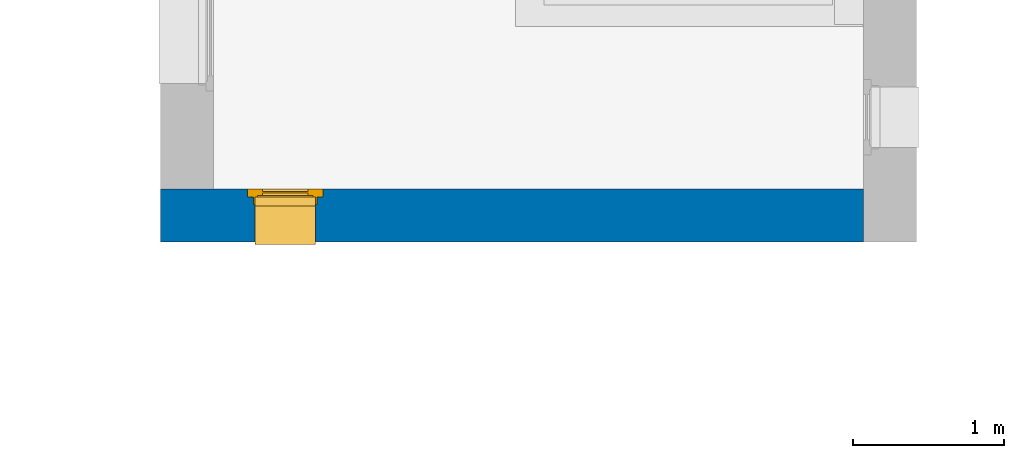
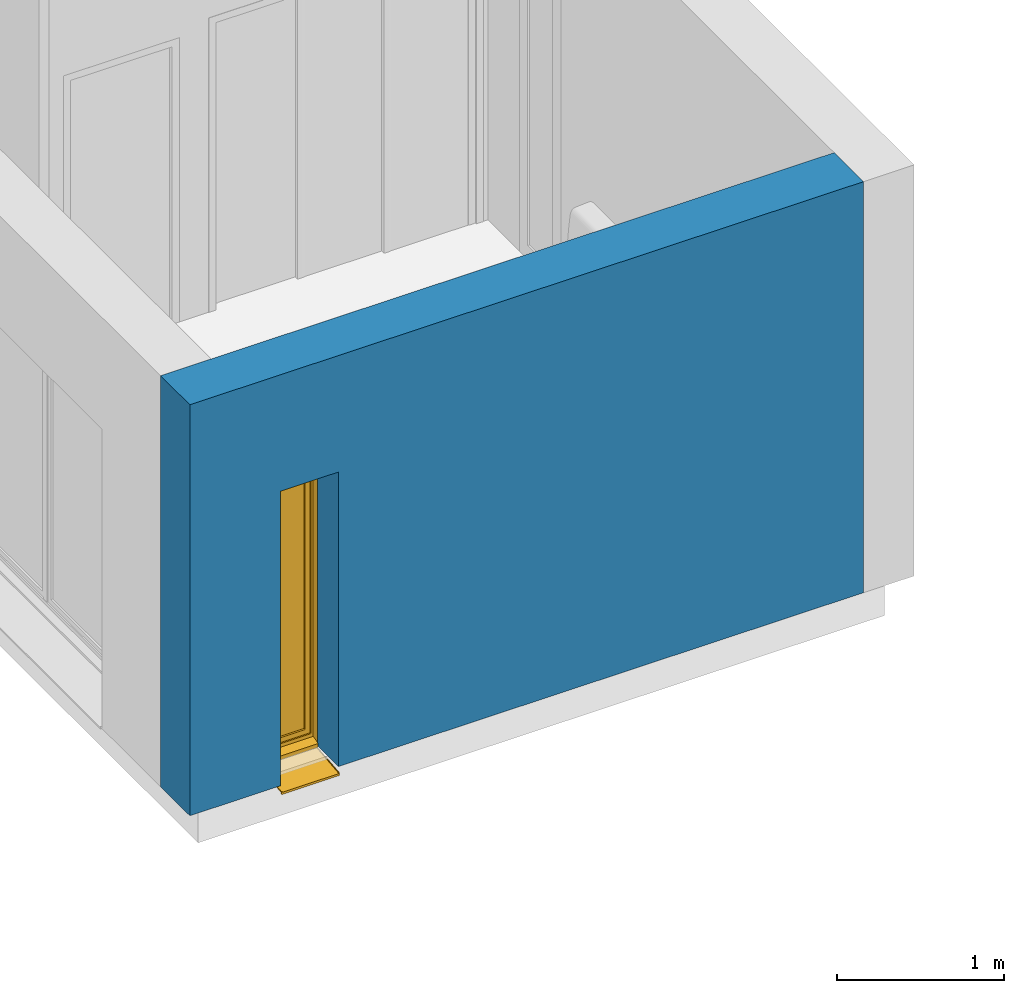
# One storey, part 6 of 40: 1 wall, 1 window, 1 opening.
"""IFC2X3 building model written with IfcOpenShell, lengths in metres."""

from ifc_helpers import new_model, entity, si_unit, converted_unit, derived_unit, direction, frame, frame_2d, origin, place, context, subcontext, project, spatial, rectangle, extrude, faceted_brep, source, transform, mapped, material, material_list, layer, layer_set, layer_usage, type_object, type_shapes, element, fill, save


model = new_model("IFC2X3")

# Units and contexts
model_context = context("Model", 3, precision=1e-05, world=origin(), true_north=direction((6.12303176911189e-17, 1.0)))
body_context = subcontext(model_context, "Body", "Model", "MODEL_VIEW")
ifc_project = project(units=[si_unit("LENGTHUNIT", "METRE"), si_unit("AREAUNIT", "SQUARE_METRE"), si_unit("VOLUMEUNIT", "CUBIC_METRE"), converted_unit("PLANEANGLEUNIT", "DEGREE", entity("IfcRatioMeasure", 0.0174532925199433), si_unit("PLANEANGLEUNIT", "RADIAN"), dimensions=[0, 0, 0, 0, 0, 0, 0]), si_unit("MASSUNIT", "GRAM", prefix="KILO"), derived_unit("MASSDENSITYUNIT", [(si_unit("MASSUNIT", "GRAM", prefix="KILO"), 1), (si_unit("LENGTHUNIT", "METRE"), -3)]), si_unit("TIMEUNIT", "SECOND"), si_unit("FREQUENCYUNIT", "HERTZ"), si_unit("THERMODYNAMICTEMPERATUREUNIT", "DEGREE_CELSIUS"), derived_unit("THERMALTRANSMITTANCEUNIT", [(si_unit("MASSUNIT", "GRAM", prefix="KILO"), 1), (si_unit("THERMODYNAMICTEMPERATUREUNIT", "KELVIN"), -1), (si_unit("TIMEUNIT", "SECOND"), -3)]), derived_unit("VOLUMETRICFLOWRATEUNIT", [(si_unit("LENGTHUNIT", "METRE"), 3), (si_unit("TIMEUNIT", "SECOND"), -1)]), si_unit("ELECTRICCURRENTUNIT", "AMPERE"), si_unit("ELECTRICVOLTAGEUNIT", "VOLT"), si_unit("POWERUNIT", "WATT"), si_unit("FORCEUNIT", "NEWTON", prefix="KILO"), si_unit("ILLUMINANCEUNIT", "LUX"), si_unit("LUMINOUSFLUXUNIT", "LUMEN"), si_unit("LUMINOUSINTENSITYUNIT", "CANDELA"), derived_unit("USERDEFINED", [(si_unit("MASSUNIT", "GRAM", prefix="KILO"), -1), (si_unit("LENGTHUNIT", "METRE"), -2), (si_unit("TIMEUNIT", "SECOND"), 3), (si_unit("LUMINOUSFLUXUNIT", "LUMEN"), 1)]), derived_unit("LINEARVELOCITYUNIT", [(si_unit("LENGTHUNIT", "METRE"), 1), (si_unit("TIMEUNIT", "SECOND"), -1)]), si_unit("PRESSUREUNIT", "PASCAL"), derived_unit("USERDEFINED", [(si_unit("LENGTHUNIT", "METRE"), -2), (si_unit("MASSUNIT", "GRAM", prefix="KILO"), 1), (si_unit("TIMEUNIT", "SECOND"), -2)])], contexts=[model_context])

# Site, building, storey
site_placement = place(None, origin())
site = spatial("IfcSite", under=ifc_project, at=site_placement, Name="Surface", CompositionType="ELEMENT")
building_placement = place(site_placement, origin())
building = spatial("IfcBuilding", under=site, at=building_placement, CompositionType="ELEMENT")
storey_placement = place(building_placement, origin())
storey = spatial("IfcBuildingStorey", under=building, at=storey_placement, Name="RDC", CompositionType="ELEMENT", Elevation=-1.0941605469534e-13)

# Wall, opening, window
ifc_material_1 = material(Name="Bardage bois")
ifc_layer_1 = layer(ifc_material_1, 0.01)
ifc_material_2 = material(Name="Maçonnerie - Isolant")
ifc_layer_2 = layer(ifc_material_2, 0.12)
ifc_material_3 = material(Name="Blocs béton manufacturés")
ifc_layer_3 = layer(ifc_material_3, 0.2)
ifc_material_4 = material(Name="Par défaut")
ifc_layer_4 = layer(ifc_material_4, 0.01)
ifc_material_5 = material(Name="Plâtre")
ifc_layer_5 = layer(ifc_material_5, 0.01)
ifc_layer_set = layer_set([ifc_layer_1, ifc_layer_2, ifc_layer_3, ifc_layer_4, ifc_layer_5], Name="Mur de base:M8 Ext. Bois 2 + Isolant 12 +  BBMC 20 + vide 1 + ba13")
ifc_layer_usage = layer_usage(ifc_layer_set, "AXIS2", "NEGATIVE", 0.175)
wall_type = type_object("IfcWallType", Name="Mur de base:M8 Ext. Bois 2 + Isolant 12 +  BBMC 20 + vide 1 + ba13", PredefinedType="STANDARD", material=ifc_layer_set)
wall_placement = place(storey_placement, frame((16.4475111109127, -4.83798932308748, 0.0), z_axis=(0.0, 0.0, 1.0), x_axis=(-1.0, 0.0, 0.0)))
wall = element("IfcWallStandardCase", 1, at=wall_placement, inside=storey, type_object=wall_type, material=ifc_layer_usage, Name="Mur de base:M8 Ext. Bois 2 + Isolant 12 +  BBMC 20 + vide 1 + ba13", ObjectType="Mur de base:M8 Ext. Bois 2 + Isolant 12 +  BBMC 20 + vide 1 + ba13", context=body_context, shape_type="SweptSolid", body=[
    extrude(rectangle(XDim=4.65, YDim=0.349999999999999, at=frame_2d((2.325, 0.0), x_axis=(-1.0, 0.0))), origin(), (0.0, 0.0, 1.0), 2.99999999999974),
])
opening_placement = place(wall_placement, frame((4.075, 0.500000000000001, -0.0775370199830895), z_axis=(0.0, 0.0, 1.0), x_axis=(-1.0, 0.0, 0.0)))
opening = element("IfcOpeningElement", 2, at=opening_placement, cuts=wall, Name="Mur de base:M8 Ext. Bois 2 + Isolant 12 +  BBMC 20 + vide 1 + ba13", ObjectType="Opening", context=body_context, shape_type="Brep", body=[
    faceted_brep([(0.45, 0.595000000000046, 0.077537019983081), (0.45, 0.574999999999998, 0.077537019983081), (0.45, 0.574999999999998, 2.22753701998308), (0.449999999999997, 0.0, 2.22753701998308), (0.449999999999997, 0.0, 0.0), (0.45, 0.595000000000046, 0.062537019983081), (0.0499999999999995, 1.0, 0.077537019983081), (0.0499999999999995, 0.675, 0.077537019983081), (0.0499999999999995, 0.675, 2.22753701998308), (0.0499999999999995, 1.0, 2.22753701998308), (0.45, 1.0, 0.077537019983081), (0.45, 0.675, 0.077537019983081), (0.499999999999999, 0.675, 0.077537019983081), (0.499999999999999, 0.625000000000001, 0.077537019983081), (0.459999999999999, 0.625000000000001, 0.077537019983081), (0.459999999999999, 0.574999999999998, 0.077537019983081), (0.0499999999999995, 0.595000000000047, 0.077537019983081), (0.0499999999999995, 0.574999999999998, 0.0775370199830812), (0.0399999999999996, 0.574999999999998, 0.077537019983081), (0.0399999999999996, 0.625000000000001, 0.077537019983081), (0.0, 0.625000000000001, 0.077537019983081), (0.0, 0.675, 0.077537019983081), (0.45, 1.0, 2.22753701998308), (0.0499999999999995, 0.574999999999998, 2.22753701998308), (0.0499999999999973, 0.0, 2.22753701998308), (0.0499999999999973, 0.0, 0.0), (0.0499999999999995, 0.595000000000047, 0.062537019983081), (0.499999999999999, 0.675, 2.27753701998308), (0.499999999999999, 0.625000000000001, 2.27753701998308), (0.0, 0.625000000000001, 2.27753701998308), (0.0399999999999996, 0.625000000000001, 2.23753701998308), (0.459999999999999, 0.625000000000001, 2.23753701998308), (0.459999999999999, 0.574999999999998, 2.23753701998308), (0.0399999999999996, 0.574999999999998, 2.23753701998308), (0.45, 0.675, 2.22753701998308), (0.0, 0.675, 2.27753701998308)], [[[0, 1, 2, 3, 4, 5]], [[6, 7, 8, 9]], [[10, 11, 12, 13, 14, 15, 1, 0, 16, 17, 18, 19, 20, 21, 7, 6]], [[10, 6, 9, 22]], [[3, 2, 23, 24]], [[3, 24, 25, 4]], [[4, 25, 26, 5]], [[5, 26, 16, 0]], [[12, 27, 28, 13]], [[13, 28, 29, 20, 19, 30, 31, 14]], [[14, 31, 32, 15]], [[15, 32, 33, 18, 17, 23, 2, 1]], [[11, 34, 8, 7, 21, 35, 27, 12]], [[27, 35, 29, 28]], [[30, 33, 32, 31]], [[29, 35, 21, 20]], [[19, 18, 33, 30]], [[9, 8, 34, 22]], [[24, 23, 17, 16, 26, 25]], [[22, 34, 11, 10]]]),
])
ifc_material_6 = material(Name="Fenêtre - Appui")
ifc_material_7 = material(Name="Fenêtre - Vitrage")
ifc_material_8 = material(Name="Fenêtre - Cadre")
ifc_material_list_1 = material_list([ifc_material_6, ifc_material_7, ifc_material_8])
ifc_material_list_2 = material_list([ifc_material_6, ifc_material_7, ifc_material_8])
window_style = type_object("IfcWindowStyle", Name="0.40m x2.15m", ConstructionType="NOTDEFINED", OperationType="SINGLE_PANEL", ParameterTakesPrecedence=False, Sizeable=False, material=ifc_material_list_2)
shared_shape = source(origin(), body_context, "Body", "Brep", [
    faceted_brep([(0.45, -0.309999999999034, 0.0378375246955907), (0.45, -0.589999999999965, 0.0672667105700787), (0.45, -0.589999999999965, 0.0775370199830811), (0.45, -0.594999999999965, 0.0775370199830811), (0.45, -0.594999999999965, 0.0625370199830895), (0.45, -0.314999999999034, 0.0331078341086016), (0.45, -0.314999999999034, 0.0228073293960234), (0.45, -0.309999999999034, 0.022281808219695), (0.0499999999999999, -0.309999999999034, 0.0378375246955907), (0.0499999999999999, -0.309999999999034, 0.022281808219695), (0.0499999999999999, -0.314999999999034, 0.0228073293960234), (0.0499999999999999, -0.314999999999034, 0.0331078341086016), (0.0499999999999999, -0.594999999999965, 0.0625370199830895), (0.0499999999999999, -0.594999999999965, 0.0775370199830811), (0.0499999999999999, -0.589999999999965, 0.0775370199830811), (0.0499999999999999, -0.589999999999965, 0.0672667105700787)], [[[0, 1, 2, 3, 4, 5, 6, 7]], [[8, 9, 10, 11, 12, 13, 14, 15]], [[1, 0, 8, 15]], [[2, 1, 15, 14]], [[3, 2, 14, 13]], [[4, 3, 13, 12]], [[5, 4, 12, 11]], [[6, 5, 11, 10]], [[7, 6, 10, 9]], [[0, 7, 9, 8]]]),
    faceted_brep([(0.0500000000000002, -0.309999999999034, 0.0392634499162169), (0.0500000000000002, -0.309999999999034, 0.0378375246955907), (0.0499999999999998, -0.589999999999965, 0.0672667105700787), (0.0499999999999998, -0.589999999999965, 0.0722942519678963), (0.0500000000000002, -0.313581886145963, 0.04324153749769), (0.0500000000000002, -0.311027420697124, 0.0419399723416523), (0.0549999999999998, -0.589999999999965, 0.0722942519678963), (0.0549999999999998, -0.589999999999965, 0.0672667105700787), (0.0550000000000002, -0.309999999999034, 0.0378375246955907), (0.0550000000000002, -0.309999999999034, 0.0392634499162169), (0.0550000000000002, -0.311027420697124, 0.0419399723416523), (0.0550000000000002, -0.313581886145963, 0.04324153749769)], [[[0, 1, 2, 3, 4, 5]], [[6, 7, 8, 9, 10, 11]], [[2, 1, 8, 7]], [[3, 2, 7, 6]], [[4, 3, 6, 11]], [[4, 11, 10, 5]], [[10, 9, 0, 5]], [[1, 0, 9, 8]]]),
    faceted_brep([(0.445, -0.309999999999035, 0.0392634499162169), (0.445, -0.309999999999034, 0.0378375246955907), (0.445, -0.589999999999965, 0.0672667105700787), (0.445, -0.589999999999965, 0.0722942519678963), (0.445, -0.313581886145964, 0.04324153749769), (0.445, -0.311027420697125, 0.0419399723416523), (0.45, -0.589999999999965, 0.0722942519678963), (0.45, -0.589999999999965, 0.0672667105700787), (0.45, -0.309999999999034, 0.0378375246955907), (0.45, -0.309999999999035, 0.0392634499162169), (0.45, -0.311027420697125, 0.0419399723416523), (0.45, -0.313581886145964, 0.04324153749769)], [[[0, 1, 2, 3, 4, 5]], [[6, 7, 8, 9, 10, 11]], [[2, 1, 8, 7]], [[3, 2, 7, 6]], [[4, 3, 6, 11]], [[4, 11, 10, 5]], [[10, 9, 0, 5]], [[1, 0, 9, 8]]]),
    faceted_brep([(0.0999999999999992, -0.649000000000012, 0.17753701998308), (0.0999999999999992, -0.649000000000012, 2.17753701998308), (0.4, -0.649000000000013, 2.17753701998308), (0.4, -0.649000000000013, 0.17753701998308), (0.0999999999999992, -0.661000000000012, 0.17753701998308), (0.0999999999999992, -0.661000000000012, 2.17753701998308), (0.4, -0.661000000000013, 2.17753701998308), (0.4, -0.661000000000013, 0.17753701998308)], [[[0, 1, 2, 3]], [[1, 0, 4, 5]], [[3, 2, 6, 7]], [[0, 3, 7, 4]], [[4, 7, 6, 5]], [[2, 1, 5, 6]]]),
    faceted_brep([(0.0999999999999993, -0.635000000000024, 2.17753701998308), (0.0999999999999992, -0.675000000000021, 2.17753701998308), (0.0999999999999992, -0.675000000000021, 0.177537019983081), (0.0999999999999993, -0.635000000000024, 0.17753701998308), (0.4, -0.675000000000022, 0.17753701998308), (0.4, -0.635000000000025, 0.17753701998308), (0.399999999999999, -0.675000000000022, 2.17753701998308), (0.449999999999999, -0.675000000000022, 0.127537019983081), (0.449999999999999, -0.675000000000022, 2.22753701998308), (0.0499999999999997, -0.675000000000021, 2.22753701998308), (0.0499999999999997, -0.675000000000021, 0.127537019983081), (0.4, -0.635000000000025, 2.17753701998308), (0.049999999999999, -0.635000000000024, 0.12753701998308), (0.0499999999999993, -0.635000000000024, 2.22753701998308), (0.45, -0.635000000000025, 2.22753701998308), (0.45, -0.635000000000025, 0.127537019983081)], [[[0, 1, 2, 3]], [[3, 2, 4, 5]], [[2, 1, 6, 4], [7, 8, 9, 10]], [[5, 4, 6, 11]], [[5, 11, 0, 3], [12, 13, 14, 15]], [[9, 13, 12, 10]], [[10, 12, 15, 7]], [[7, 15, 14, 8]], [[11, 6, 1, 0]], [[8, 14, 13, 9]]], outer=[[True], [True], [False, True], [True], [False, True], [True], [True], [True], [True], [True]]),
    faceted_brep([(0.0, -0.675, 0.0775370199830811), (0.0, -0.625000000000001, 0.0775370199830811), (0.0499999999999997, -0.625000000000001, 0.0775370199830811), (0.0499999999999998, -0.575000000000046, 0.0775370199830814), (0.45, -0.575000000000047, 0.0775370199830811), (0.45, -0.625000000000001, 0.0775370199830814), (0.499999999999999, -0.625000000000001, 0.0775370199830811), (0.499999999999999, -0.675, 0.0775370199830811), (0.0, -0.675, 2.27753701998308), (0.0, -0.625000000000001, 2.27753701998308), (0.499999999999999, -0.625000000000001, 2.27753701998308), (0.45, -0.625000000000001, 0.116913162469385), (0.0499999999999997, -0.625000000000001, 0.11691316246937), (0.0649999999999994, -0.625000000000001, 2.21253701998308), (0.0649999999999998, -0.625000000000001, 0.142537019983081), (0.435, -0.625000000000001, 0.142537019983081), (0.435, -0.625000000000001, 2.21253701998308), (0.0499999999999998, -0.565000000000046, 0.100836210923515), (0.0499999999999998, -0.565000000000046, 0.0725370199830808), (0.0499999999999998, -0.575000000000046, 0.0725370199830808), (0.45, -0.575000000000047, 0.0725370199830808), (0.45, -0.565000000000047, 0.0725370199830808), (0.45, -0.565000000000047, 0.100836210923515), (0.499999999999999, -0.675, 2.27753701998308), (0.45, -0.675, 2.22753701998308), (0.45, -0.675, 0.127537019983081), (0.0499999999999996, -0.675, 0.127537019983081), (0.0499999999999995, -0.675, 2.22753701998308), (0.0649999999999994, -0.635000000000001, 2.21253701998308), (0.0649999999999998, -0.635000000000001, 0.142537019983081), (0.435, -0.635000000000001, 0.142537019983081), (0.435, -0.635000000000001, 2.21253701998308), (0.45, -0.635000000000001, 2.22753701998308), (0.0499999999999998, -0.635000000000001, 2.22753701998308), (0.0499999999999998, -0.635000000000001, 0.127537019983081), (0.45, -0.635000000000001, 0.127537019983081)], [[[0, 1, 2, 3, 4, 5, 6, 7]], [[1, 0, 8, 9]], [[1, 9, 10, 6, 5, 11, 12, 2], [13, 14, 15, 16]], [[12, 17, 18, 19, 3, 2]], [[3, 19, 20, 4]], [[4, 20, 21, 22, 11, 5]], [[6, 10, 23, 7]], [[0, 7, 23, 8], [24, 25, 26, 27]], [[13, 28, 29, 14]], [[29, 30, 15, 14]], [[31, 16, 15, 30]], [[17, 12, 11, 22]], [[28, 31, 30, 29], [32, 33, 34, 35]], [[34, 33, 27, 26]], [[26, 25, 35, 34]], [[24, 32, 35, 25]], [[18, 17, 22, 21]], [[19, 18, 21, 20]], [[13, 16, 31, 28]], [[10, 9, 8, 23]], [[33, 32, 24, 27]]], outer=[[True], [True], [True, False], [True], [True], [True], [True], [True, False], [True], [True], [True], [True], [False, True], [True], [True], [True], [True], [True], [True], [True], [True]]),
    faceted_brep([(0.0499999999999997, -0.574999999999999, 0.0775370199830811), (0.0499999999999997, -0.625000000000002, 0.0775370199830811), (0.0399999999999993, -0.625000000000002, 0.0775370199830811), (0.0399999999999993, -0.574999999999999, 0.0775370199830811), (0.0499999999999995, -0.574999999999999, 2.22753701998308), (0.0499999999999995, -0.625000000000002, 2.22753701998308), (0.45, -0.625000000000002, 2.22753701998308), (0.45, -0.625000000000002, 0.0775370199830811), (0.46, -0.625000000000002, 0.0775370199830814), (0.46, -0.625000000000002, 2.23753701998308), (0.0399999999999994, -0.625000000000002, 2.23753701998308), (0.0399999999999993, -0.574999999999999, 2.23753701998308), (0.46, -0.574999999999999, 2.23753701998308), (0.46, -0.574999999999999, 0.0775370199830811), (0.45, -0.574999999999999, 0.0775370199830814), (0.45, -0.574999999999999, 2.22753701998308)], [[[0, 1, 2, 3]], [[1, 0, 4, 5]], [[2, 1, 5, 6, 7, 8, 9, 10]], [[3, 2, 10, 11]], [[0, 3, 11, 12, 13, 14, 15, 4]], [[6, 15, 14, 7]], [[14, 13, 8, 7]], [[12, 9, 8, 13]], [[5, 4, 15, 6]], [[11, 10, 9, 12]]]),
])
type_shapes(window_style, [shared_shape])
window_placement = place(opening_placement, frame((0.499999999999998, 0.0, 0.0), z_axis=(0.0, 0.0, 1.0), x_axis=(-1.0, 0.0, 0.0)))
window = element("IfcWindow", 3, at=window_placement, inside=storey, type_object=window_style, material=ifc_material_list_1, Name="1 Vantail - Droit:0.40m x2.15m", ObjectType="0.40m x2.15m", OverallHeight=2.28, OverallWidth=0.5, context=body_context, shape_type="MappedRepresentation", body=[
    mapped(shared_shape, transform((0.0, 0.0, 0.0), scale=1.0)),
])
fill(opening, window)

save(model, "model.ifc")
